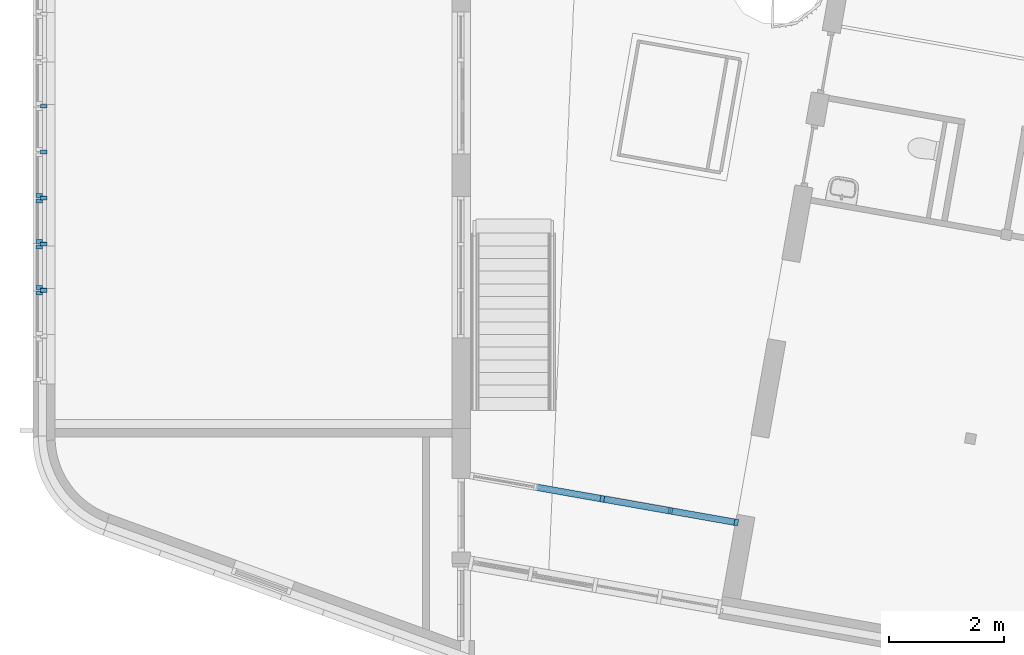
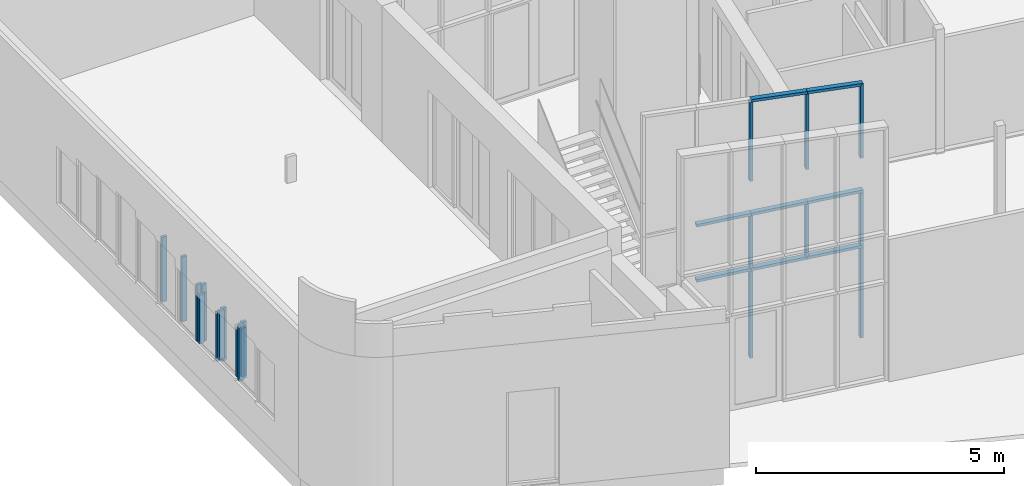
# One storey, part 3 of 21: 30 members, 10 elements without a shape of their own.
"""IFC2X3 building model written with IfcOpenShell, lengths in millimetres."""

from ifc_helpers import new_model, entity, si_unit, converted_unit, derived_unit, direction, frame, frame_2d, origin, origin_2d_with_axis, place, context, subcontext, project, spatial, polyline, rectangle, outline, extrude, clip, halfspace, bounded_halfspace, source, transform, mapped, material, type_object, type_shapes, element, aggregate, save


model = new_model("IFC2X3")

# Units and contexts
model_context = context("Model", 3, precision=0.01, world=origin(), true_north=direction((6.12303176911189e-17, 1.0)))
body_context = subcontext(model_context, "Body", "Model", "MODEL_VIEW")
ifc_project = project(units=[si_unit("LENGTHUNIT", "METRE", prefix="MILLI"), si_unit("AREAUNIT", "SQUARE_METRE"), si_unit("VOLUMEUNIT", "CUBIC_METRE"), converted_unit("PLANEANGLEUNIT", "DEGREE", entity("IfcRatioMeasure", 0.0174532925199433), si_unit("PLANEANGLEUNIT", "RADIAN"), dimensions=[0, 0, 0, 0, 0, 0, 0]), si_unit("MASSUNIT", "GRAM", prefix="KILO"), derived_unit("MASSDENSITYUNIT", [(si_unit("MASSUNIT", "GRAM", prefix="KILO"), 1), (si_unit("LENGTHUNIT", "METRE"), -3)]), si_unit("TIMEUNIT", "SECOND"), si_unit("FREQUENCYUNIT", "HERTZ"), si_unit("THERMODYNAMICTEMPERATUREUNIT", "DEGREE_CELSIUS"), derived_unit("THERMALTRANSMITTANCEUNIT", [(si_unit("MASSUNIT", "GRAM", prefix="KILO"), 1), (si_unit("THERMODYNAMICTEMPERATUREUNIT", "KELVIN"), -1), (si_unit("TIMEUNIT", "SECOND"), -3)]), derived_unit("VOLUMETRICFLOWRATEUNIT", [(si_unit("LENGTHUNIT", "METRE"), 3), (si_unit("TIMEUNIT", "SECOND"), -1)]), si_unit("ELECTRICCURRENTUNIT", "AMPERE"), si_unit("ELECTRICVOLTAGEUNIT", "VOLT"), si_unit("POWERUNIT", "WATT"), si_unit("FORCEUNIT", "NEWTON", prefix="KILO"), si_unit("ILLUMINANCEUNIT", "LUX"), si_unit("LUMINOUSFLUXUNIT", "LUMEN"), si_unit("LUMINOUSINTENSITYUNIT", "CANDELA"), derived_unit("USERDEFINED", [(si_unit("MASSUNIT", "GRAM", prefix="KILO"), -1), (si_unit("LENGTHUNIT", "METRE"), -2), (si_unit("TIMEUNIT", "SECOND"), 3), (si_unit("LUMINOUSFLUXUNIT", "LUMEN"), 1)]), derived_unit("LINEARVELOCITYUNIT", [(si_unit("LENGTHUNIT", "METRE"), 1), (si_unit("TIMEUNIT", "SECOND"), -1)]), si_unit("PRESSUREUNIT", "PASCAL"), derived_unit("USERDEFINED", [(si_unit("LENGTHUNIT", "METRE"), -2), (si_unit("MASSUNIT", "GRAM", prefix="KILO"), 1), (si_unit("TIMEUNIT", "SECOND"), -2)])], contexts=[model_context])

# Site, building, storey
site_placement = place(None, origin())
site = spatial("IfcSite", under=ifc_project, at=site_placement, Name="<Kadaster Gemeente>;<Kadaster nummer>;<Kadaster sectie>", CompositionType="ELEMENT")
building_placement = place(site_placement, origin())
building = spatial("IfcBuilding", under=site, at=building_placement, Name="JRCZ Middelburg", CompositionType="ELEMENT")
storey_placement = place(building_placement, origin())
storey = spatial("IfcBuildingStorey", under=building, at=storey_placement, Name="00 begane grond", CompositionType="ELEMENT", Elevation=0.0)

# Curtain wall, members
curtain_wall_type_1 = type_object("IfcCurtainWallType", Name="Curtain Wall:vliesgevel B", PredefinedType="NOTDEFINED")
curtain_wall_1_placement = place(storey_placement, origin())
curtain_wall_1 = element("IfcCurtainWall", 1, at=curtain_wall_1_placement, inside=storey, type_object=curtain_wall_type_1, Name="Curtain Wall:vliesgevel B", ObjectType="Curtain Wall:vliesgevel B")
ifc_material_1 = material(Name="RBM_i2_binnenkozijn")
member_type_1 = type_object("IfcMemberType", Name="32_CWM_067x114", PredefinedType="MEMBER")
shared_shape_1 = source(origin(), body_context, "Body", "SweptSolid", [
    extrude(rectangle(XDim=113.999999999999, YDim=67.0, at=origin_2d_with_axis()), frame((-33.5, 0.0, -2211.16666666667), z_axis=(0.0, 0.0, 1.0), x_axis=(0.0, -1.0, 0.0)), (0.0, 0.0, 1.0), 2211.16666666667),
])
type_shapes(member_type_1, [shared_shape_1])
member_1_placement = place(storey_placement, frame((22027.0026406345, 8355.85560200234, 0.0), z_axis=(0.0, 0.0, -1.0), x_axis=(0.984807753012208, -0.173648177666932, 0.0)))
member_1 = element("IfcMember", 2, at=member_1_placement, type_object=member_type_1, material=ifc_material_1, Name="Rectangular Mullion:32_CWM_067x114", ObjectType="Rectangular Mullion:32_CWM_067x114", context=body_context, shape_type="MappedRepresentation", body=[
    mapped(shared_shape_1, transform((0.0, 0.0, 0.0), scale=1.0)),
])
member_type_2 = type_object("IfcMemberType", Name="32_CWM_067x114", PredefinedType="MEMBER")
shared_shape_2 = source(origin(), body_context, "Body", "SweptSolid", [
    extrude(rectangle(XDim=113.999999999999, YDim=67.0, at=origin_2d_with_axis()), frame((0.0, 0.0, -2144.16666666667), z_axis=(0.0, 0.0, 1.0), x_axis=(0.0, -1.0, 0.0)), (0.0, 0.0, 1.0), 2144.16666666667),
])
type_shapes(member_type_2, [shared_shape_2])
member_2_placement = place(storey_placement, frame((19664.9206469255, 8772.35438813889, 67.0), z_axis=(0.0, 0.0, -1.0), x_axis=(0.984807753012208, -0.173648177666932, 0.0)))
member_2 = element("IfcMember", 3, at=member_2_placement, type_object=member_type_2, material=ifc_material_1, Name="Rectangular Mullion:32_CWM_067x114", ObjectType="Rectangular Mullion:32_CWM_067x114", context=body_context, shape_type="MappedRepresentation", body=[
    mapped(shared_shape_2, transform((0.0, 0.0, 0.0), scale=1.0)),
])
member_type_3 = type_object("IfcMemberType", Name="32_CWM_067x114", PredefinedType="MEMBER")
shared_shape_3 = source(origin(), body_context, "Body", "SweptSolid", [
    extrude(rectangle(XDim=113.999999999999, YDim=67.0, at=origin_2d_with_axis()), frame((-33.5, 0.0, -1290.66666666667), z_axis=(0.0, 0.0, 1.0), x_axis=(0.0, -1.0, 0.0)), (0.0, 0.0, 1.0), 1290.66666666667),
])
type_shapes(member_type_3, [shared_shape_3])
member_3_placement = place(storey_placement, frame((22027.0026406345, 8355.85560200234, 2278.16666666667), z_axis=(0.0, 0.0, -1.0), x_axis=(0.984807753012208, -0.173648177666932, 0.0)))
member_3 = element("IfcMember", 4, at=member_3_placement, type_object=member_type_3, material=ifc_material_1, Name="Rectangular Mullion:32_CWM_067x114", ObjectType="Rectangular Mullion:32_CWM_067x114", context=body_context, shape_type="MappedRepresentation", body=[
    mapped(shared_shape_3, transform((0.0, 0.0, 0.0), scale=1.0)),
])
member_type_4 = type_object("IfcMemberType", Name="32_CWM_067x114", PredefinedType="MEMBER")
shared_shape_4 = source(origin(), body_context, "Body", "Clipping", [
    clip(extrude(rectangle(XDim=113.999999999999, YDim=67.0, at=origin_2d_with_axis()), frame((-33.5, 0.0, -1832.66666666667), z_axis=(0.0, 0.0, 1.0), x_axis=(0.0, -1.0, 0.0)), (0.0, 0.0, 1.0), 1832.66666666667), halfspace(frame((0.0, -304.800000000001, -1832.66666666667), z_axis=(-0.680974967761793, 0.0, -0.732306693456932), x_axis=(-0.732306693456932, 0.0, 0.680974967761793)), False)),
])
type_shapes(member_type_4, [shared_shape_4])
member_4_placement = place(storey_placement, frame((22027.0026406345, 8355.85560200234, 4422.33333333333), z_axis=(0.0, 0.0, -1.0), x_axis=(0.984807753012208, -0.173648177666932, 0.0)))
member_4 = element("IfcMember", 5, at=member_4_placement, type_object=member_type_4, material=ifc_material_1, Name="Rectangular Mullion:32_CWM_067x114", ObjectType="Rectangular Mullion:32_CWM_067x114", context=body_context, shape_type="MappedRepresentation", body=[
    mapped(shared_shape_4, transform((0.0, 0.0, 0.0), scale=1.0)),
])
member_type_5 = type_object("IfcMemberType", Name="32_CWM_067x114", PredefinedType="MEMBER")
shared_shape_5 = source(origin(), body_context, "Body", "SweptSolid", [
    extrude(rectangle(XDim=113.999999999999, YDim=67.0, at=origin_2d_with_axis()), frame((0.0, 0.0, -1290.66666666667), z_axis=(0.0, 0.0, 1.0), x_axis=(0.0, -1.0, 0.0)), (0.0, 0.0, 1.0), 1290.66666666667),
])
type_shapes(member_type_5, [shared_shape_5])
member_5_placement = place(storey_placement, frame((19664.9206469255, 8772.35438813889, 2278.16666666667), z_axis=(0.0, 0.0, -1.0), x_axis=(0.984807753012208, -0.173648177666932, 0.0)))
member_5 = element("IfcMember", 6, at=member_5_placement, type_object=member_type_5, material=ifc_material_1, Name="Rectangular Mullion:32_CWM_067x114", ObjectType="Rectangular Mullion:32_CWM_067x114", context=body_context, shape_type="MappedRepresentation", body=[
    mapped(shared_shape_5, transform((0.0, 0.0, 0.0), scale=1.0)),
])
member_6_placement = place(storey_placement, frame((20849.0391680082, 8563.56234451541, 2278.16666666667), z_axis=(0.0, 0.0, -1.0), x_axis=(0.984807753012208, -0.173648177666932, 0.0)))
member_6 = element("IfcMember", 7, at=member_6_placement, type_object=member_type_5, material=ifc_material_1, Name="Rectangular Mullion:32_CWM_067x114", ObjectType="Rectangular Mullion:32_CWM_067x114", context=body_context, shape_type="MappedRepresentation", body=[
    mapped(shared_shape_5, transform((0.0, 0.0, 0.0), scale=1.0)),
])
member_type_6 = type_object("IfcMemberType", Name="32_CWM_067x114", PredefinedType="MEMBER")
shared_shape_6 = source(origin(), body_context, "Body", "Clipping", [
    clip(clip(extrude(rectangle(XDim=113.999999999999, YDim=67.0, at=origin_2d_with_axis()), frame((0.0, 0.0, -1942.6261666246), z_axis=(0.0, 0.0, 1.0), x_axis=(0.0, -1.0, 0.0)), (0.0, 0.0, 1.0), 1942.6261666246), bounded_halfspace(frame((-4.86707255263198, 57.0, -1940.54067866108), z_axis=(0.0726428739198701, 0.0, -0.997358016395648), x_axis=(-0.997358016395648, 0.0, -0.0726428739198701)), False, frame((0.0, 0.0, -1942.6261666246), z_axis=(0.0, 0.0, 1.0), x_axis=(0.0, -1.0, 0.0)), polyline([(57.0, -4.867072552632), (57.0, -33.5), (-57.0, -33.5), (-57.0, -4.86707255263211), (57.0, -4.867072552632)]))), bounded_halfspace(frame((1197.51838538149, 57.0, -1852.96456879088), z_axis=(0.0726428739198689, 0.0, -0.997358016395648), x_axis=(-0.997358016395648, 0.0, -0.0726428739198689)), False, frame((0.0, 0.0, -1942.6261666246), z_axis=(0.0, 0.0, 1.0), x_axis=(0.0, -1.0, 0.0)), polyline([(-57.0, 33.5), (57.0, 33.5), (57.0, -4.86707255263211), (-57.0, -4.86707255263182), (-57.0, 33.5)]))),
])
type_shapes(member_type_6, [shared_shape_6])
member_7_placement = place(storey_placement, frame((19664.9206469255, 8772.35438813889, 4422.33333333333), z_axis=(0.0, 0.0, -1.0), x_axis=(0.984807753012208, -0.173648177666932, 0.0)))
member_7 = element("IfcMember", 8, at=member_7_placement, type_object=member_type_6, material=ifc_material_1, Name="Rectangular Mullion:32_CWM_067x114", ObjectType="Rectangular Mullion:32_CWM_067x114", context=body_context, shape_type="MappedRepresentation", body=[
    mapped(shared_shape_6, transform((0.0, 0.0, 0.0), scale=1.0)),
])
member_type_7 = type_object("IfcMemberType", Name="32_CWM_067x114", PredefinedType="MEMBER")
shared_shape_7 = source(origin(), body_context, "Body", "SweptSolid", [
    extrude(rectangle(XDim=113.999999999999, YDim=67.0, at=origin_2d_with_axis()), frame((0.0, 0.0, -1202.38545793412), z_axis=(0.0, 0.0, 1.0), x_axis=(0.0, -1.0, 0.0)), (0.0, 0.0, 1.0), 1202.38545793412),
])
type_shapes(member_type_7, [shared_shape_7])
member_8_placement = place(storey_placement, frame((20849.0391680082, 8563.56234451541, 2244.66666666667), z_axis=(0.984807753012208, -0.173648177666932, 0.0), x_axis=(0.0, 0.0, 1.0)))
member_8 = element("IfcMember", 9, at=member_8_placement, type_object=member_type_7, material=ifc_material_1, Name="Rectangular Mullion:32_CWM_067x114", ObjectType="Rectangular Mullion:32_CWM_067x114", context=body_context, shape_type="MappedRepresentation", body=[
    mapped(shared_shape_7, transform((0.0, 0.0, 0.0), scale=1.0)),
])
member_9_placement = place(storey_placement, frame((20849.0391680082, 8563.56234451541, 3602.33333333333), z_axis=(0.984807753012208, -0.173648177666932, 0.0), x_axis=(0.0, 0.0, 1.0)))
member_9 = element("IfcMember", 10, at=member_9_placement, type_object=member_type_7, material=ifc_material_1, Name="Rectangular Mullion:32_CWM_067x114", ObjectType="Rectangular Mullion:32_CWM_067x114", context=body_context, shape_type="MappedRepresentation", body=[
    mapped(shared_shape_7, transform((0.0, 0.0, 0.0), scale=1.0)),
])
member_type_8 = type_object("IfcMemberType", Name="32_CWM_067x114", PredefinedType="MEMBER")
shared_shape_8 = source(origin(), body_context, "Body", "Clipping", [
    clip(extrude(rectangle(XDim=113.999999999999, YDim=67.0, at=origin_2d_with_axis()), frame((-33.5, 0.0, -1199.30399943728), z_axis=(0.0, 0.0, 1.0), x_axis=(0.0, -1.0, 0.0)), (0.0, 0.0, 1.0), 1199.30399943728), halfspace(frame((0.0, -304.800000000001, 0.0), z_axis=(-0.680939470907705, 0.0, 0.73233970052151), x_axis=(-0.73233970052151, 0.0, -0.680939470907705)), False)),
])
type_shapes(member_type_8, [shared_shape_8])
member_10_placement = place(storey_placement, frame((22027.0026406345, 8355.85560200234, 6255.0), z_axis=(0.982205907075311, -0.17318940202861, -0.0726428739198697), x_axis=(0.071539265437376, -0.0126143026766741, 0.997358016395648)))
member_10 = element("IfcMember", 11, at=member_10_placement, type_object=member_type_8, material=ifc_material_1, Name="Rectangular Mullion:32_CWM_067x114", ObjectType="Rectangular Mullion:32_CWM_067x114", context=body_context, shape_type="MappedRepresentation", body=[
    mapped(shared_shape_8, transform((0.0, 0.0, 0.0), scale=1.0)),
])
member_type_9 = type_object("IfcMemberType", Name="32_CWM_067x114", PredefinedType="MEMBER")
shared_shape_9 = source(origin(), body_context, "Body", "SweptSolid", [
    extrude(rectangle(XDim=113.999999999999, YDim=67.0, at=origin_2d_with_axis()), frame((0.0, 0.0, -1172.26973481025), z_axis=(0.0, 0.0, 1.0), x_axis=(0.0, -1.0, 0.0)), (0.0, 0.0, 1.0), 1172.26973481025),
])
type_shapes(member_type_9, [shared_shape_9])
member_11_placement = place(storey_placement, frame((19664.9206469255, 8772.35438813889, 2244.66666666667), z_axis=(0.984807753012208, -0.173648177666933, 0.0), x_axis=(0.0, 0.0, 1.0)))
member_11 = element("IfcMember", 12, at=member_11_placement, type_object=member_type_9, material=ifc_material_1, Name="Rectangular Mullion:32_CWM_067x114", ObjectType="Rectangular Mullion:32_CWM_067x114", context=body_context, shape_type="MappedRepresentation", body=[
    mapped(shared_shape_9, transform((0.0, 0.0, 0.0), scale=1.0)),
])
member_12_placement = place(storey_placement, frame((19664.9206469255, 8772.35438813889, 3602.33333333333), z_axis=(0.984807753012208, -0.173648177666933, 0.0), x_axis=(0.0, 0.0, 1.0)))
member_12 = element("IfcMember", 13, at=member_12_placement, type_object=member_type_9, material=ifc_material_1, Name="Rectangular Mullion:32_CWM_067x114", ObjectType="Rectangular Mullion:32_CWM_067x114", context=body_context, shape_type="MappedRepresentation", body=[
    mapped(shared_shape_9, transform((0.0, 0.0, 0.0), scale=1.0)),
])
member_type_10 = type_object("IfcMemberType", Name="32_CWM_067x114", PredefinedType="MEMBER")
shared_shape_10 = source(origin(), body_context, "Body", "SweptSolid", [
    extrude(rectangle(XDim=113.999999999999, YDim=67.0, at=origin_2d_with_axis()), frame((-33.5, 0.0, -1205.5620489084), z_axis=(0.0, 0.0, 1.0), x_axis=(0.0, -1.0, 0.0)), (0.0, 0.0, 1.0), 1205.5620489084),
])
type_shapes(member_type_10, [shared_shape_10])
member_13_placement = place(storey_placement, frame((20849.0391680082, 8563.56234451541, 6342.12088922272), z_axis=(0.982205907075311, -0.17318940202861, -0.0726428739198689), x_axis=(0.0715392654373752, -0.012614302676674, 0.997358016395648)))
member_13 = element("IfcMember", 14, at=member_13_placement, type_object=member_type_10, material=ifc_material_1, Name="Rectangular Mullion:32_CWM_067x114", ObjectType="Rectangular Mullion:32_CWM_067x114", context=body_context, shape_type="MappedRepresentation", body=[
    mapped(shared_shape_10, transform((0.0, 0.0, 0.0), scale=1.0)),
])
member_type_11 = type_object("IfcMemberType", Name="32_CWM_067x114", PredefinedType="MEMBER")
shared_shape_11 = source(origin(), body_context, "Body", "SweptSolid", [
    extrude(rectangle(XDim=113.999999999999, YDim=67.0, at=origin_2d_with_axis()), frame((0.0, 0.0, -1196.13545793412), z_axis=(0.0, 0.0, 1.0), x_axis=(0.0, -1.0, 0.0)), (0.0, 0.0, 1.0), 1196.13545793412),
])
type_shapes(member_type_11, [shared_shape_11])
member_14_placement = place(storey_placement, frame((22027.0026406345, 8355.85560200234, 2244.66666666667), z_axis=(0.984807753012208, -0.173648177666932, 0.0), x_axis=(0.0, 0.0, 1.0)))
member_14 = element("IfcMember", 15, at=member_14_placement, type_object=member_type_11, material=ifc_material_1, Name="Rectangular Mullion:32_CWM_067x114", ObjectType="Rectangular Mullion:32_CWM_067x114", context=body_context, shape_type="MappedRepresentation", body=[
    mapped(shared_shape_11, transform((0.0, 0.0, 0.0), scale=1.0)),
])
member_15_placement = place(storey_placement, frame((22027.0026406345, 8355.85560200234, 3602.33333333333), z_axis=(0.984807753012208, -0.173648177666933, 0.0), x_axis=(0.0, 0.0, 1.0)))
member_15 = element("IfcMember", 16, at=member_15_placement, type_object=member_type_11, material=ifc_material_1, Name="Rectangular Mullion:32_CWM_067x114", ObjectType="Rectangular Mullion:32_CWM_067x114", context=body_context, shape_type="MappedRepresentation", body=[
    mapped(shared_shape_11, transform((0.0, 0.0, 0.0), scale=1.0)),
])
member_type_12 = type_object("IfcMemberType", Name="32_CWM_067x114", PredefinedType="MEMBER")
shared_shape_12 = source(origin(), body_context, "Body", "Clipping", [
    clip(clip(extrude(rectangle(XDim=114.000000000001, YDim=67.0, at=origin_2d_with_axis()), frame((0.0, 0.0, -1855.0500567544), z_axis=(0.0, 0.0, 1.0), x_axis=(0.0, -1.0, 0.0)), (0.0, 0.0, 1.0), 1855.0500567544), bounded_halfspace(frame((-4.867072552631, 57.0, -1852.96456879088), z_axis=(0.0726428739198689, 0.0, -0.997358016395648), x_axis=(-0.997358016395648, 0.0, -0.0726428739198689)), False, frame((0.0, 0.0, -1855.0500567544), z_axis=(0.0, 0.0, 1.0), x_axis=(0.0, -1.0, 0.0)), polyline([(57.0, -4.86707255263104), (57.0, -33.5), (-57.0, -33.5), (-57.0, -4.86707255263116), (57.0, -4.86707255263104)]))), bounded_halfspace(frame((1191.26838538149, 57.0, -1765.84367956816), z_axis=(0.0726428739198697, 0.0, -0.997358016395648), x_axis=(-0.997358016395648, 0.0, -0.0726428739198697)), False, frame((0.0, 0.0, -1855.0500567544), z_axis=(0.0, 0.0, 1.0), x_axis=(0.0, -1.0, 0.0)), polyline([(-57.0, 33.5), (57.0, 33.5), (57.0, -4.86707255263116), (-57.0, -4.86707255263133), (-57.0, 33.5)]))),
])
type_shapes(member_type_12, [shared_shape_12])
member_16_placement = place(storey_placement, frame((20849.0391680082, 8563.56234451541, 4422.33333333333), z_axis=(0.0, 0.0, -1.0), x_axis=(0.984807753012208, -0.173648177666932, 0.0)))
member_16 = element("IfcMember", 17, at=member_16_placement, type_object=member_type_12, material=ifc_material_1, Name="Rectangular Mullion:32_CWM_067x114", ObjectType="Rectangular Mullion:32_CWM_067x114", context=body_context, shape_type="MappedRepresentation", body=[
    mapped(shared_shape_12, transform((0.0, 0.0, 0.0), scale=1.0)),
])
aggregate(curtain_wall_1, [member_1, member_2, member_3, member_4, member_5, member_7, member_8, member_10, member_9, member_11, member_12, member_13, member_14, member_15, member_6, member_16])

curtain_wall_type_2 = type_object("IfcCurtainWallType", Name="Curtain Wall:NLRS_31_CW_hsb rek 63x196mm h.o.h. 800mm", PredefinedType="NOTDEFINED")
curtain_wall_2_placement = place(storey_placement, origin())
curtain_wall_2 = element("IfcCurtainWall", 18, at=curtain_wall_2_placement, inside=storey, type_object=curtain_wall_type_2, Name="Curtain Wall:NLRS_31_CW_hsb rek 63x196mm h.o.h. 800mm", ObjectType="Curtain Wall:NLRS_31_CW_hsb rek 63x196mm h.o.h. 800mm")
member_type_13 = type_object("IfcMemberType", Name="32_CWM_067x114", PredefinedType="MEMBER")
shared_shape_13 = source(origin(), body_context, "Body", "SweptSolid", [
    extrude(rectangle(XDim=66.9999999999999, YDim=114.0, at=frame_2d((1.08002495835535e-12, 0.0), x_axis=(1.0, 0.0))), frame((9956.0, 13998.0, 700.0), z_axis=(0.0, 0.0, 1.0), x_axis=(0.0, -1.0, 0.0)), (0.0, 0.0, 1.0), 1200.0),
])
type_shapes(member_type_13, [shared_shape_13])
member_17_placement = place(storey_placement, origin())
member_17 = element("IfcMember", 19, at=member_17_placement, type_object=member_type_13, material=ifc_material_1, Name="Rectangular Mullion:32_CWM_067x114", ObjectType="Rectangular Mullion:32_CWM_067x114", context=body_context, shape_type="MappedRepresentation", body=[
    mapped(shared_shape_13, transform((0.0, 0.0, 0.0), scale=1.0)),
])
member_type_14 = type_object("IfcMemberType", Name="32_CWM_067x114", PredefinedType="MEMBER")
shared_shape_14 = source(origin(), body_context, "Body", "SweptSolid", [
    extrude(rectangle(XDim=67.0000000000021, YDim=114.0, at=frame_2d((-1.08357767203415e-12, 0.0), x_axis=(1.0, 0.0))), frame((9956.0, 13202.0, 700.0), z_axis=(0.0, 0.0, 1.0), x_axis=(0.0, -1.0, 0.0)), (0.0, 0.0, 1.0), 1200.0),
])
type_shapes(member_type_14, [shared_shape_14])
member_18_placement = place(storey_placement, origin())
member_18 = element("IfcMember", 20, at=member_18_placement, type_object=member_type_14, material=ifc_material_1, Name="Rectangular Mullion:32_CWM_067x114", ObjectType="Rectangular Mullion:32_CWM_067x114", context=body_context, shape_type="MappedRepresentation", body=[
    mapped(shared_shape_14, transform((0.0, 0.0, 0.0), scale=1.0)),
])
aggregate(curtain_wall_2, [member_17, member_18])

curtain_wall_type_3 = type_object("IfcCurtainWallType", Name="Curtain Wall:NLRS_31_CW_Ontwerpkozijn 067x114 2", PredefinedType="NOTDEFINED")
curtain_wall_3_placement = place(storey_placement, origin())
curtain_wall_3 = element("IfcCurtainWall", 21, at=curtain_wall_3_placement, inside=storey, type_object=curtain_wall_type_3, Name="Curtain Wall:NLRS_31_CW_Ontwerpkozijn 067x114 2", ObjectType="Curtain Wall:NLRS_31_CW_Ontwerpkozijn 067x114 2")
ifc_material_2 = material(Name="RBM_a_kozijn")
member_type_15 = type_object("IfcMemberType", Name="31_CWM_067x114", PredefinedType="MEMBER")
shared_shape_15 = source(origin(), body_context, "Body", "SweptSolid", [
    extrude(outline(polyline([(-37.0, -65.3333333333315), (30.0, -65.3333333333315), (30.0, 16.6666666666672), (7.0, 16.6666666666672), (7.0, 48.6666666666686), (-37.0, 48.6666666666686), (-37.0, -65.3333333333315)])), frame((9882.33333333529, 13242.4999999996, 700.0), z_axis=(0.0, 0.0, 1.0), x_axis=(0.0, -1.0, 0.0)), (0.0, 0.0, 1.0), 1200.0),
])
type_shapes(member_type_15, [shared_shape_15])
member_19_placement = place(storey_placement, origin())
member_19 = element("IfcMember", 22, at=member_19_placement, type_object=member_type_15, material=ifc_material_2, Name="Rectangular Mullion:31_CWM_067x114", ObjectType="Rectangular Mullion:31_CWM_067x114", context=body_context, shape_type="MappedRepresentation", body=[
    mapped(shared_shape_15, transform((0.0, 0.0, 0.0), scale=1.0)),
])
member_type_16 = type_object("IfcMemberType", Name="31_CWM_067x114", PredefinedType="MEMBER")
shared_shape_16 = source(origin(), body_context, "Body", "SweptSolid", [
    extrude(outline(polyline([(-30.0, -65.3333333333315), (37.0, -65.3333333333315), (37.0, 48.6666666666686), (-7.0, 48.6666666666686), (-7.0, 16.6666666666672), (-30.0, 16.6666666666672), (-30.0, -65.3333333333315)])), frame((9882.3333333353, 13957.4999999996, 700.0), z_axis=(0.0, 0.0, 1.0), x_axis=(0.0, -1.0, 0.0)), (0.0, 0.0, 1.0), 1200.0),
])
type_shapes(member_type_16, [shared_shape_16])
member_20_placement = place(storey_placement, origin())
member_20 = element("IfcMember", 23, at=member_20_placement, type_object=member_type_16, material=ifc_material_2, Name="Rectangular Mullion:31_CWM_067x114", ObjectType="Rectangular Mullion:31_CWM_067x114", context=body_context, shape_type="MappedRepresentation", body=[
    mapped(shared_shape_16, transform((0.0, 0.0, 0.0), scale=1.0)),
])
aggregate(curtain_wall_3, [member_19, member_20])

curtain_wall_4_placement = place(storey_placement, origin())
curtain_wall_4 = element("IfcCurtainWall", 24, at=curtain_wall_4_placement, inside=storey, type_object=curtain_wall_type_2, Name="Curtain Wall:NLRS_31_CW_hsb rek 63x196mm h.o.h. 800mm", ObjectType="Curtain Wall:NLRS_31_CW_hsb rek 63x196mm h.o.h. 800mm")
member_type_17 = type_object("IfcMemberType", Name="32_CWM_067x114", PredefinedType="MEMBER")
shared_shape_17 = source(origin(), body_context, "Body", "SweptSolid", [
    extrude(rectangle(XDim=66.9999999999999, YDim=114.0, at=frame_2d((1.08002495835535e-12, 0.0), x_axis=(1.0, 0.0))), frame((9956.0, 15598.0, 700.0), z_axis=(0.0, 0.0, 1.0), x_axis=(0.0, -1.0, 0.0)), (0.0, 0.0, 1.0), 1600.0),
])
type_shapes(member_type_17, [shared_shape_17])
member_21_placement = place(storey_placement, origin())
member_21 = element("IfcMember", 25, at=member_21_placement, type_object=member_type_17, material=ifc_material_1, Name="Rectangular Mullion:32_CWM_067x114", ObjectType="Rectangular Mullion:32_CWM_067x114", context=body_context, shape_type="MappedRepresentation", body=[
    mapped(shared_shape_17, transform((0.0, 0.0, 0.0), scale=1.0)),
])
member_type_18 = type_object("IfcMemberType", Name="32_CWM_067x114", PredefinedType="MEMBER")
shared_shape_18 = source(origin(), body_context, "Body", "SweptSolid", [
    extrude(rectangle(XDim=67.0000000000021, YDim=114.0, at=frame_2d((-1.08357767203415e-12, 0.0), x_axis=(1.0, 0.0))), frame((9956.0, 14802.0, 700.0), z_axis=(0.0, 0.0, 1.0), x_axis=(0.0, -1.0, 0.0)), (0.0, 0.0, 1.0), 1600.0),
])
type_shapes(member_type_18, [shared_shape_18])
member_22_placement = place(storey_placement, origin())
member_22 = element("IfcMember", 26, at=member_22_placement, type_object=member_type_18, material=ifc_material_1, Name="Rectangular Mullion:32_CWM_067x114", ObjectType="Rectangular Mullion:32_CWM_067x114", context=body_context, shape_type="MappedRepresentation", body=[
    mapped(shared_shape_18, transform((0.0, 0.0, 0.0), scale=1.0)),
])
aggregate(curtain_wall_4, [member_21, member_22])

# Curtain wall, member
curtain_wall_5_placement = place(storey_placement, origin())
curtain_wall_5 = element("IfcCurtainWall", 27, at=curtain_wall_5_placement, inside=storey, type_object=curtain_wall_type_2, Name="Curtain Wall:NLRS_31_CW_hsb rek 63x196mm h.o.h. 800mm", ObjectType="Curtain Wall:NLRS_31_CW_hsb rek 63x196mm h.o.h. 800mm")
member_type_19 = type_object("IfcMemberType", Name="32_CWM_067x114", PredefinedType="MEMBER")
shared_shape_19 = source(origin(), body_context, "Body", "SweptSolid", [
    extrude(rectangle(XDim=66.9999999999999, YDim=114.0, at=frame_2d((1.08357767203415e-12, 1.08002495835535e-12), x_axis=(1.0, 0.0))), frame((9956.0, 12398.0, 750.0), z_axis=(0.0, 0.0, 1.0), x_axis=(0.0, -1.0, 0.0)), (0.0, 0.0, 1.0), 1400.0),
])
type_shapes(member_type_19, [shared_shape_19])
member_23_placement = place(storey_placement, origin())
member_23 = element("IfcMember", 28, at=member_23_placement, type_object=member_type_19, material=ifc_material_1, Name="Rectangular Mullion:32_CWM_067x114", ObjectType="Rectangular Mullion:32_CWM_067x114", context=body_context, shape_type="MappedRepresentation", body=[
    mapped(shared_shape_19, transform((0.0, 0.0, 0.0), scale=1.0)),
])
aggregate(curtain_wall_5, [member_23])

curtain_wall_6_placement = place(storey_placement, origin())
curtain_wall_6 = element("IfcCurtainWall", 29, at=curtain_wall_6_placement, inside=storey, type_object=curtain_wall_type_3, Name="Curtain Wall:NLRS_31_CW_Ontwerpkozijn 067x114 2", ObjectType="Curtain Wall:NLRS_31_CW_Ontwerpkozijn 067x114 2")
member_type_20 = type_object("IfcMemberType", Name="31_CWM_067x114", PredefinedType="MEMBER")
shared_shape_20 = source(origin(), body_context, "Body", "SweptSolid", [
    extrude(rectangle(XDim=66.9999999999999, YDim=114.0, at=frame_2d((1.08357767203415e-12, 1.08002495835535e-12), x_axis=(1.0, 0.0))), frame((9874.0, 12354.0, 750.0), z_axis=(0.0, 0.0, 1.0), x_axis=(0.0, -1.0, 0.0)), (0.0, 0.0, 1.0), 1400.0),
])
type_shapes(member_type_20, [shared_shape_20])
member_24_placement = place(storey_placement, origin())
member_24 = element("IfcMember", 30, at=member_24_placement, type_object=member_type_20, material=ifc_material_2, Name="Rectangular Mullion:31_CWM_067x114", ObjectType="Rectangular Mullion:31_CWM_067x114", context=body_context, shape_type="MappedRepresentation", body=[
    mapped(shared_shape_20, transform((0.0, 0.0, 0.0), scale=1.0)),
])
aggregate(curtain_wall_6, [member_24])

# Curtain wall, members
curtain_wall_7_placement = place(storey_placement, origin())
curtain_wall_7 = element("IfcCurtainWall", 31, at=curtain_wall_7_placement, inside=storey, type_object=curtain_wall_type_2, Name="Curtain Wall:NLRS_31_CW_hsb rek 63x196mm h.o.h. 800mm", ObjectType="Curtain Wall:NLRS_31_CW_hsb rek 63x196mm h.o.h. 800mm")
member_type_21 = type_object("IfcMemberType", Name="32_CWM_067x114", PredefinedType="MEMBER")
shared_shape_21 = source(origin(), body_context, "Body", "SweptSolid", [
    extrude(rectangle(XDim=66.9999999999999, YDim=114.0, at=frame_2d((1.08002495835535e-12, 0.0), x_axis=(1.0, 0.0))), frame((9956.0, 13198.0, 800.0), z_axis=(0.0, 0.0, 1.0), x_axis=(0.0, -1.0, 0.0)), (0.0, 0.0, 1.0), 1200.0),
])
type_shapes(member_type_21, [shared_shape_21])
member_25_placement = place(storey_placement, origin())
member_25 = element("IfcMember", 32, at=member_25_placement, type_object=member_type_21, material=ifc_material_1, Name="Rectangular Mullion:32_CWM_067x114", ObjectType="Rectangular Mullion:32_CWM_067x114", context=body_context, shape_type="MappedRepresentation", body=[
    mapped(shared_shape_21, transform((0.0, 0.0, 0.0), scale=1.0)),
])
member_type_22 = type_object("IfcMemberType", Name="32_CWM_067x114", PredefinedType="MEMBER")
shared_shape_22 = source(origin(), body_context, "Body", "SweptSolid", [
    extrude(rectangle(XDim=67.0000000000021, YDim=114.0, at=frame_2d((-1.08357767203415e-12, 0.0), x_axis=(1.0, 0.0))), frame((9956.0, 12402.0, 800.0), z_axis=(0.0, 0.0, 1.0), x_axis=(0.0, -1.0, 0.0)), (0.0, 0.0, 1.0), 1200.0),
])
type_shapes(member_type_22, [shared_shape_22])
member_26_placement = place(storey_placement, origin())
member_26 = element("IfcMember", 33, at=member_26_placement, type_object=member_type_22, material=ifc_material_1, Name="Rectangular Mullion:32_CWM_067x114", ObjectType="Rectangular Mullion:32_CWM_067x114", context=body_context, shape_type="MappedRepresentation", body=[
    mapped(shared_shape_22, transform((0.0, 0.0, 0.0), scale=1.0)),
])
aggregate(curtain_wall_7, [member_25, member_26])

curtain_wall_8_placement = place(storey_placement, origin())
curtain_wall_8 = element("IfcCurtainWall", 34, at=curtain_wall_8_placement, inside=storey, type_object=curtain_wall_type_3, Name="Curtain Wall:NLRS_31_CW_Ontwerpkozijn 067x114 2", ObjectType="Curtain Wall:NLRS_31_CW_Ontwerpkozijn 067x114 2")
member_type_23 = type_object("IfcMemberType", Name="31_CWM_067x114", PredefinedType="MEMBER")
shared_shape_23 = source(origin(), body_context, "Body", "SweptSolid", [
    extrude(outline(polyline([(-37.0, -65.333333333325), (30.0, -65.333333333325), (30.0, 16.6666666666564), (7.0, 16.6666666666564), (7.0, 48.6666666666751), (-37.0, 48.6666666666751), (-37.0, -65.333333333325)])), frame((9882.33333333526, 12442.4999999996, 800.0), z_axis=(0.0, 0.0, 1.0), x_axis=(0.0, -1.0, 0.0)), (0.0, 0.0, 1.0), 1200.0),
])
type_shapes(member_type_23, [shared_shape_23])
member_27_placement = place(storey_placement, origin())
member_27 = element("IfcMember", 35, at=member_27_placement, type_object=member_type_23, material=ifc_material_2, Name="Rectangular Mullion:31_CWM_067x114", ObjectType="Rectangular Mullion:31_CWM_067x114", context=body_context, shape_type="MappedRepresentation", body=[
    mapped(shared_shape_23, transform((0.0, 0.0, 0.0), scale=1.0)),
])
member_type_24 = type_object("IfcMemberType", Name="31_CWM_067x114", PredefinedType="MEMBER")
shared_shape_24 = source(origin(), body_context, "Body", "SweptSolid", [
    extrude(outline(polyline([(-30.0, -65.3333333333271), (37.0, -65.3333333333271), (37.0, 48.6666666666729), (-7.0, 48.6666666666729), (-7.0, 16.6666666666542), (-30.0, 16.6666666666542), (-30.0, -65.3333333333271)])), frame((9882.33333333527, 13157.4999999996, 800.0), z_axis=(0.0, 0.0, 1.0), x_axis=(0.0, -1.0, 0.0)), (0.0, 0.0, 1.0), 1200.0),
])
type_shapes(member_type_24, [shared_shape_24])
member_28_placement = place(storey_placement, origin())
member_28 = element("IfcMember", 36, at=member_28_placement, type_object=member_type_24, material=ifc_material_2, Name="Rectangular Mullion:31_CWM_067x114", ObjectType="Rectangular Mullion:31_CWM_067x114", context=body_context, shape_type="MappedRepresentation", body=[
    mapped(shared_shape_24, transform((0.0, 0.0, 0.0), scale=1.0)),
])
aggregate(curtain_wall_8, [member_27, member_28])

# Curtain wall, member
curtain_wall_9_placement = place(storey_placement, origin())
curtain_wall_9 = element("IfcCurtainWall", 37, at=curtain_wall_9_placement, inside=storey, type_object=curtain_wall_type_2, Name="Curtain Wall:NLRS_31_CW_hsb rek 63x196mm h.o.h. 800mm", ObjectType="Curtain Wall:NLRS_31_CW_hsb rek 63x196mm h.o.h. 800mm")
member_type_25 = type_object("IfcMemberType", Name="32_CWM_067x114", PredefinedType="MEMBER")
shared_shape_25 = source(origin(), body_context, "Body", "SweptSolid", [
    extrude(rectangle(XDim=66.9999999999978, YDim=114.0, at=frame_2d((1.08357767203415e-12, 1.08002495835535e-12), x_axis=(1.0, 0.0))), frame((9956.0, 14002.0, 700.0), z_axis=(0.0, 0.0, 1.0), x_axis=(0.0, -1.0, 0.0)), (0.0, 0.0, 1.0), 1400.0),
])
type_shapes(member_type_25, [shared_shape_25])
member_29_placement = place(storey_placement, origin())
member_29 = element("IfcMember", 38, at=member_29_placement, type_object=member_type_25, material=ifc_material_1, Name="Rectangular Mullion:32_CWM_067x114", ObjectType="Rectangular Mullion:32_CWM_067x114", context=body_context, shape_type="MappedRepresentation", body=[
    mapped(shared_shape_25, transform((0.0, 0.0, 0.0), scale=1.0)),
])
aggregate(curtain_wall_9, [member_29])

curtain_wall_10_placement = place(storey_placement, origin())
curtain_wall_10 = element("IfcCurtainWall", 39, at=curtain_wall_10_placement, inside=storey, type_object=curtain_wall_type_3, Name="Curtain Wall:NLRS_31_CW_Ontwerpkozijn 067x114 2", ObjectType="Curtain Wall:NLRS_31_CW_Ontwerpkozijn 067x114 2")
member_type_26 = type_object("IfcMemberType", Name="31_CWM_067x114", PredefinedType="MEMBER")
shared_shape_26 = source(origin(), body_context, "Body", "SweptSolid", [
    extrude(outline(polyline([(-37.0, -65.3333333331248), (30.0, -65.3333333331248), (30.0, 16.6666666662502), (7.0, 16.6666666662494), (7.0, 48.6666666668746), (-37.0, 48.6666666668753), (-37.0, -65.3333333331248)])), frame((9882.33333333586, 14042.4999999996, 700.0), z_axis=(0.0, 0.0, 1.0), x_axis=(0.0, -1.0, 0.0)), (0.0, 0.0, 1.0), 1400.0),
])
type_shapes(member_type_26, [shared_shape_26])
member_30_placement = place(storey_placement, origin())
member_30 = element("IfcMember", 40, at=member_30_placement, type_object=member_type_26, material=ifc_material_2, Name="Rectangular Mullion:31_CWM_067x114", ObjectType="Rectangular Mullion:31_CWM_067x114", context=body_context, shape_type="MappedRepresentation", body=[
    mapped(shared_shape_26, transform((0.0, 0.0, 0.0), scale=1.0)),
])
aggregate(curtain_wall_10, [member_30])

save(model, "model.ifc")
